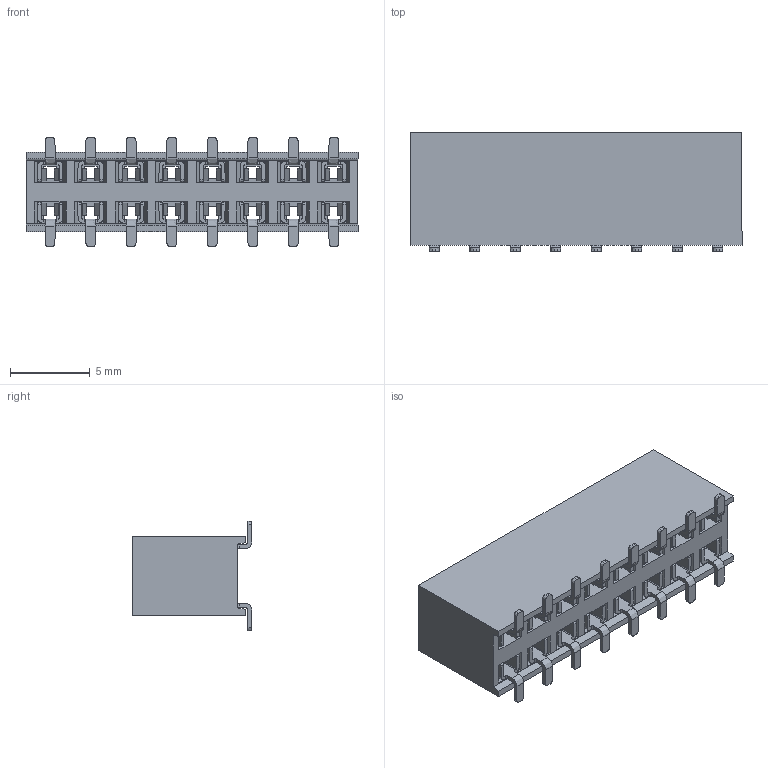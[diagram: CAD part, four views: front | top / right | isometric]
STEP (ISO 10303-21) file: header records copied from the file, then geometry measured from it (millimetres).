
FILE_DESCRIPTION (( 'STEP AP203' ), '1' );
FILE_NAME ('_ _ _C082KFMS-RC.STEP', '2016-08-04T08:31:15', ( 'LUANN HERRING' ), ( 'SULLINS' ), 'SwSTEP 2.0', 'SolidWorks 2015', '' );
FILE_SCHEMA (( 'CONFIG_CONTROL_DESIGN' ));
Length unit declared in the file: inch
Products named in the file (2): _ _ _C082KFMS-RC
Bounding box: 20.82 x 7.5 x 6.85 mm (x, y, z)
Volume: 540.3 mm3; surface area: 1802 mm2
Topology: 17 solids, 17 shells, 1642 faces, 4648 edges, 3056 vertices
Faces by surface type: plane 970, bspline 672
Entity records: 64749 total; most frequent: CARTESIAN_POINT 28260, ORIENTED_EDGE 9296, EDGE_CURVE 4648, DIRECTION 4480, VERTEX_POINT 3056, LINE 2536, VECTOR 2536, B_SPLINE_CURVE_WITH_KNOTS 2112
